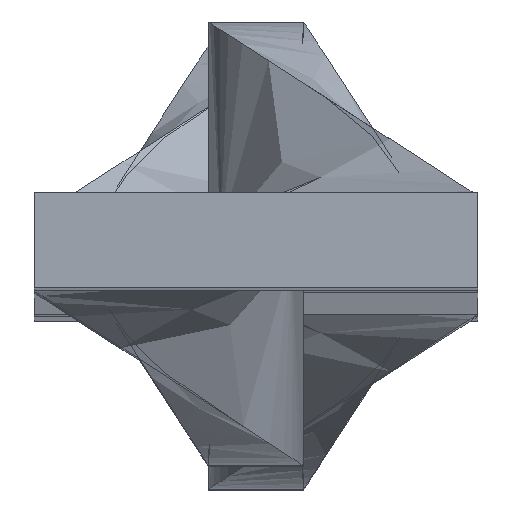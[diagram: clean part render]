
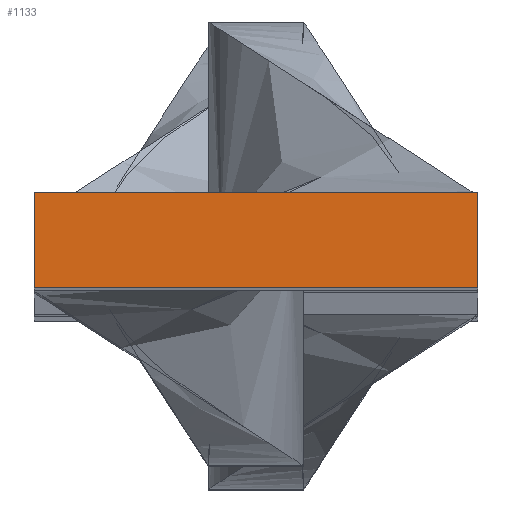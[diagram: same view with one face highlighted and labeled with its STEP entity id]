
A CAD part, top view. The second image highlights one B-rep face of the part: STEP entity #1133.
In plain terms, the highlighted planar face has unit normal (0, 0, 1).
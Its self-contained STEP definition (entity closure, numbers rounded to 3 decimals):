
#22 = ORIENTED_EDGE ( 'NONE', *, *, #256, .F. ) ;
#38 = CARTESIAN_POINT ( 'NONE',  ( 7., 1.5, 608.5 ) ) ;
#61 = DIRECTION ( 'NONE',  ( 0., 1., 0. ) ) ;
#65 = EDGE_CURVE ( 'NONE', #651, #1271, #665, .T. ) ;
#67 = CARTESIAN_POINT ( 'NONE',  ( -7., -1.5, 608.5 ) ) ;
#89 = CARTESIAN_POINT ( 'NONE',  ( 7., -1.5, 608.5 ) ) ;
#96 = CARTESIAN_POINT ( 'NONE',  ( 7., -1.5, 608.5 ) ) ;
#120 = VECTOR ( 'NONE', #61, 1000. ) ;
#174 = DIRECTION ( 'NONE',  ( 1., 0., 0. ) ) ;
#256 = EDGE_CURVE ( 'NONE', #961, #1277, #1260, .T. ) ;
#268 = VECTOR ( 'NONE', #322, 1000. ) ;
#274 = PLANE ( 'NONE',  #889 ) ;
#321 = LINE ( 'NONE', #762, #685 ) ;
#322 = DIRECTION ( 'NONE',  ( 0., -1., 0. ) ) ;
#348 = CARTESIAN_POINT ( 'NONE',  ( 7., 1.5, 608.5 ) ) ;
#379 = EDGE_LOOP ( 'NONE', ( #22, #1175, #547, #838 ) ) ;
#496 = FACE_OUTER_BOUND ( 'NONE', #379, .T. ) ;
#547 = ORIENTED_EDGE ( 'NONE', *, *, #65, .F. ) ;
#625 = CARTESIAN_POINT ( 'NONE',  ( -7., -1.5, 608.5 ) ) ;
#651 = VERTEX_POINT ( 'NONE', #38 ) ;
#665 = LINE ( 'NONE', #348, #268 ) ;
#685 = VECTOR ( 'NONE', #174, 1000. ) ;
#762 = CARTESIAN_POINT ( 'NONE',  ( -7., 1.5, 608.5 ) ) ;
#800 = EDGE_CURVE ( 'NONE', #1277, #651, #321, .T. ) ;
#838 = ORIENTED_EDGE ( 'NONE', *, *, #800, .F. ) ;
#850 = DIRECTION ( 'NONE',  ( -1., 0., 0. ) ) ;
#889 = AXIS2_PLACEMENT_3D ( 'NONE', #1103, #929, #850 ) ;
#925 = CARTESIAN_POINT ( 'NONE',  ( -7., 1.5, 608.5 ) ) ;
#929 = DIRECTION ( 'NONE',  ( 0., 0., -1. ) ) ;
#961 = VERTEX_POINT ( 'NONE', #625 ) ;
#1028 = DIRECTION ( 'NONE',  ( -1., 0., 0. ) ) ;
#1103 = CARTESIAN_POINT ( 'NONE',  ( 0., 0., 608.5 ) ) ;
#1104 = LINE ( 'NONE', #96, #1201 ) ;
#1133 = ADVANCED_FACE ( 'NONE', ( #496 ), #274, .F. ) ;
#1175 = ORIENTED_EDGE ( 'NONE', *, *, #1282, .F. ) ;
#1201 = VECTOR ( 'NONE', #1028, 1000. ) ;
#1260 = LINE ( 'NONE', #67, #120 ) ;
#1271 = VERTEX_POINT ( 'NONE', #89 ) ;
#1277 = VERTEX_POINT ( 'NONE', #925 ) ;
#1282 = EDGE_CURVE ( 'NONE', #1271, #961, #1104, .T. ) ;
